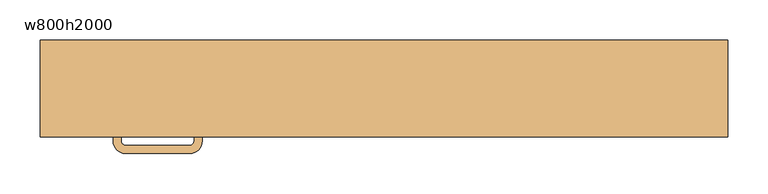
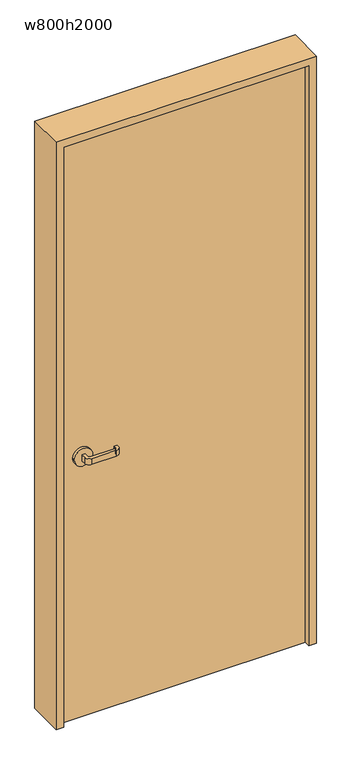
"""IFC4 building model written with IfcOpenShell, lengths in millimetres: door geometry, 片開き戸 : w800h2000."""

from ifc_helpers import new_model, si_unit, point, frame, frame_2d, origin, origin_with_axes, place, context, project, spatial, polyline, circle_curve, trimmed, segment, composite_curve, outline, extrude, source, transform, mapped, element, save


def w800h2000_fc627520(model_context):
    return source(origin(), model_context, "Body", "SweptSolid", [
        extrude(outline(polyline([(400.0, -40.0), (-400.0, -40.0), (-400.0, 0.0), (400.0, 0.0), (400.0, -40.0)])), origin_with_axes(), (0.0, 0.0, 1.0), 2000.0),
        extrude(outline(composite_curve([segment(polyline([(-325.0, -50.0), (-325.0, -65.0)]), True, "CONTINUOUS"), segment(trimmed(circle_curve(frame_2d((-320.0, -65.0)), 5.0), [point((-325.0, -65.0))], [point((-320.0, -70.0))], True, "CARTESIAN"), True, "CONTINUOUS"), segment(polyline([(-320.0, -70.0), (-240.0, -70.0)]), True, "CONTINUOUS"), segment(trimmed(circle_curve(frame_2d((-240.0, -65.0)), 5.0), [point((-240.0, -70.0))], [point((-235.0, -65.0))], True, "CARTESIAN"), True, "CONTINUOUS"), segment(polyline([(-235.0, -65.0), (-235.0, -60.0), (-225.0, -60.0), (-225.0, -65.0)]), True, "CONTINUOUS"), segment(trimmed(circle_curve(frame_2d((-240.0, -65.0)), 15.0), [point((-225.0, -65.0))], [point((-240.0, -80.0))], False, "CARTESIAN"), True, "CONTINUOUS"), segment(polyline([(-240.0, -80.0), (-320.0, -80.0)]), True, "CONTINUOUS"), segment(trimmed(circle_curve(frame_2d((-320.0, -65.0)), 15.0), [point((-320.0, -80.0))], [point((-335.0, -65.0))], False, "CARTESIAN"), True, "CONTINUOUS"), segment(polyline([(-335.0, -65.0), (-335.0, -50.0), (-325.0, -50.0)]), True, "CONTINUOUS")], self_intersect=False)), frame((0.0, 0.0, 890.0), z_axis=(0.0, 0.0, 1.0), x_axis=(1.0, 0.0, 0.0)), (0.0, 0.0, 1.0), 20.0),
        extrude(outline(composite_curve([segment(trimmed(circle_curve(frame_2d((900.0, -330.0)), 30.0), [point((900.0, -360.0))], [point((900.0, -300.0))], False, "CARTESIAN"), True, "CONTINUOUS"), segment(trimmed(circle_curve(frame_2d((900.0, -330.0)), 30.0), [point((900.0, -300.0))], [point((900.0, -360.0))], False, "CARTESIAN"), True, "CONTINUOUS")], self_intersect=False)), frame((0.0, -50.0, 0.0), z_axis=(0.0, 1.0, 0.0), x_axis=(0.0, 0.0, 1.0)), (0.0, 0.0, 1.0), 10.0),
        extrude(outline(composite_curve([segment(polyline([(-335.0, 10.0), (-335.0, 25.0)]), True, "CONTINUOUS"), segment(trimmed(circle_curve(frame_2d((-320.0, 25.0)), 15.0), [point((-335.0, 25.0))], [point((-320.0, 40.0))], False, "CARTESIAN"), True, "CONTINUOUS"), segment(polyline([(-320.0, 40.0), (-240.0, 40.0)]), True, "CONTINUOUS"), segment(trimmed(circle_curve(frame_2d((-240.0, 25.0)), 15.0), [point((-240.0, 40.0))], [point((-225.0, 25.0))], False, "CARTESIAN"), True, "CONTINUOUS"), segment(polyline([(-225.0, 25.0), (-225.0, 20.0), (-235.0, 20.0), (-235.0, 25.0)]), True, "CONTINUOUS"), segment(trimmed(circle_curve(frame_2d((-240.0, 25.0)), 5.0), [point((-235.0, 25.0))], [point((-240.0, 30.0))], True, "CARTESIAN"), True, "CONTINUOUS"), segment(polyline([(-240.0, 30.0), (-320.0, 30.0)]), True, "CONTINUOUS"), segment(trimmed(circle_curve(frame_2d((-320.0, 25.0)), 5.0), [point((-320.0, 30.0))], [point((-325.0, 25.0))], True, "CARTESIAN"), True, "CONTINUOUS"), segment(polyline([(-325.0, 25.0), (-325.0, 10.0), (-335.0, 10.0)]), True, "CONTINUOUS")], self_intersect=False)), frame((0.0, 0.0, 890.0), z_axis=(0.0, 0.0, 1.0), x_axis=(1.0, 0.0, 0.0)), (0.0, 0.0, 1.0), 20.0),
        extrude(outline(composite_curve([segment(trimmed(circle_curve(frame_2d((900.0, -330.0)), 30.0), [point((900.0, -360.0))], [point((900.0, -300.0))], False, "CARTESIAN"), True, "CONTINUOUS"), segment(trimmed(circle_curve(frame_2d((900.0, -330.0)), 30.0), [point((900.0, -300.0))], [point((900.0, -360.0))], False, "CARTESIAN"), True, "CONTINUOUS")], self_intersect=False)), frame((0.0, 0.0, 0.0), z_axis=(0.0, 1.0, 0.0), x_axis=(0.0, 0.0, 1.0)), (0.0, 0.0, 1.0), 10.0),
        extrude(outline(polyline([(0.0, -400.0), (2000.0, -400.0), (2000.0, 400.0), (0.0, 400.0), (0.0, 425.0), (2025.0, 425.0), (2025.0, -425.0), (0.0, -425.0), (0.0, -400.0)])), frame((0.0, -60.0, 0.0), z_axis=(0.0, 1.0, 0.0), x_axis=(0.0, 0.0, 1.0)), (0.0, 0.0, 1.0), 120.0),
    ])


if __name__ == "__main__":
    model = new_model("IFC4")
    model_context = context("Model", 3, world=origin())
    ifc_project = project(units=[si_unit("LENGTHUNIT", "METRE", prefix="MILLI")], contexts=[model_context])
    site = spatial("IfcSite", under=ifc_project)
    building = spatial("IfcBuilding", under=site)
    placement = place(None, origin())
    w800h2000_shape = w800h2000_fc627520(model_context)
    element("IfcDoor", 1, ObjectType="片開き戸 : w800h2000", at=placement, inside=building, context=model_context, shape_type="MappedRepresentation", body=[
        mapped(w800h2000_shape, transform((0.0, 0.0, 0.0), x_axis=(1.0, 0.0, 0.0), y_axis=(0.0, 1.0, 0.0), z_axis=(0.0, 0.0, 1.0))),
    ])
    save(model, "model.ifc")
